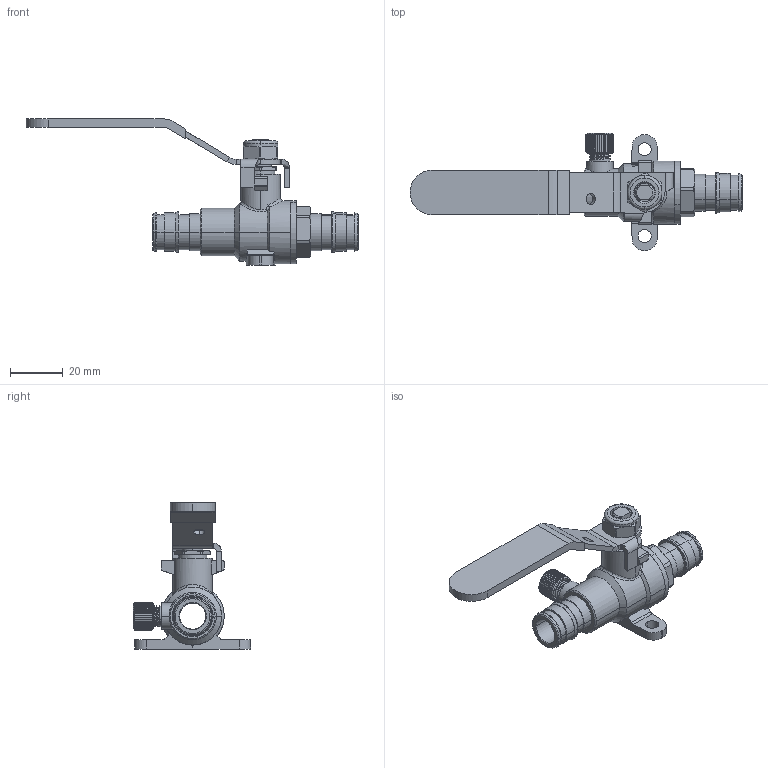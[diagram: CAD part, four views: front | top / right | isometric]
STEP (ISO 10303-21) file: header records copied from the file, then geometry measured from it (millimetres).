
FILE_DESCRIPTION(('Open CASCADE Model'),'2;1');
FILE_NAME('Open CASCADE Shape Model','2021-12-13T16:42:54',('Author'),( 'Open CASCADE'),'Open CASCADE STEP processor 7.3','Open CASCADE 7.3' ,'Unknown');
FILE_SCHEMA(('AUTOMOTIVE_DESIGN { 1 0 10303 214 1 1 1 1 }'));
Length unit declared in the file: millimetre
Products named in the file (14): Open CASCADE STEP translator 7.3 1; Open CASCADE STEP translator 7.3 1.1; Open CASCADE STEP translator 7.3 1.2; Open CASCADE STEP translator 7.3 1.3; Open CASCADE STEP translator 7.3 1.4; Open CASCADE STEP translator 7.3 1.5; Open CASCADE STEP translator 7.3 1.6; Open CASCADE STEP translator 7.3 1.7; Open CASCADE STEP translator 7.3 1.8; Open CASCADE STEP translator 7.3 1.9; Open CASCADE STEP translator 7.3 1.10; Open CASCADE STEP translator 7.3 1.11; Open CASCADE STEP translator 7.3 1.12; Open CASCADE STEP translator 7.3 1.13
Assembly tree (13 placements, depth 2):
  Open CASCADE STEP translator 7.3 1
    Open CASCADE STEP translator 7.3 1.1
    Open CASCADE STEP translator 7.3 1.2
    Open CASCADE STEP translator 7.3 1.3
    Open CASCADE STEP translator 7.3 1.4
    Open CASCADE STEP translator 7.3 1.5
    Open CASCADE STEP translator 7.3 1.6
    Open CASCADE STEP translator 7.3 1.7
    Open CASCADE STEP translator 7.3 1.8
    Open CASCADE STEP translator 7.3 1.9
    Open CASCADE STEP translator 7.3 1.10
    Open CASCADE STEP translator 7.3 1.11
    Open CASCADE STEP translator 7.3 1.12
    Open CASCADE STEP translator 7.3 1.13
Bounding box: 126.1 x 44.5 x 55.48 mm (x, y, z)
Volume: 23122.3 mm3; surface area: 21509.5 mm2
Topology: 13 solids, 13 shells, 961 faces, 2585 edges, 1682 vertices
Faces by surface type: cylinder 424, plane 277, bspline 139, cone 87, torus 32, sphere 2
Entity records: 134744 total; most frequent: CARTESIAN_POINT 88912, DIRECTION 6740, ORIENTED_EDGE 5166, PCURVE 5166, DEFINITIONAL_REPRESENTATION 5166, LINE 3530, VECTOR 3530, B_SPLINE_CURVE_WITH_KNOTS 2993
